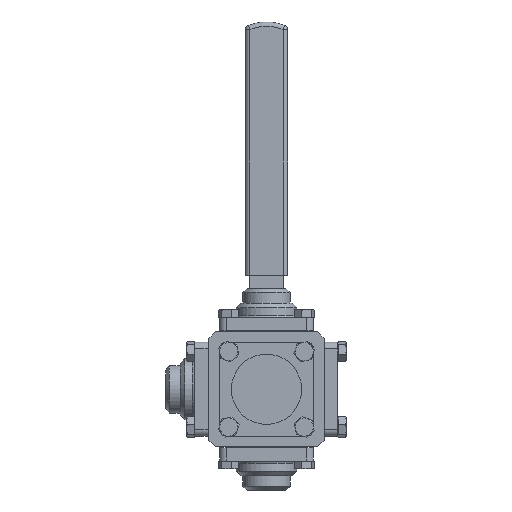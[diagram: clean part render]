
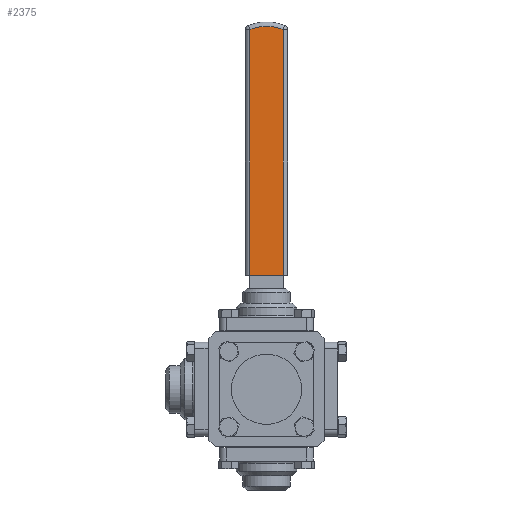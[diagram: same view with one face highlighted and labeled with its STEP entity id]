
A CAD part, front view. The second image highlights one B-rep face of the part: STEP entity #2375.
In plain terms, the highlighted planar face has unit normal (0, -1, 0).
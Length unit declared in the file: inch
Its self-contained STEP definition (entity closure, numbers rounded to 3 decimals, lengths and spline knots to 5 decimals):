
#467 = FACE_OUTER_BOUND ( 'NONE', #27627, .T. ) ;
#759 = VECTOR ( 'NONE', #25459, 39.37008 ) ;
#765 = VECTOR ( 'NONE', #14505, 39.37008 ) ;
#2375 = ADVANCED_FACE ( 'NONE', ( #467 ), #17873, .F. ) ;
#2649 = ORIENTED_EDGE ( 'NONE', *, *, #22527, .F. ) ;
#4998 = ORIENTED_EDGE ( 'NONE', *, *, #12411, .T. ) ;
#5904 = LINE ( 'NONE', #23674, #21831 ) ;
#6834 = CARTESIAN_POINT ( 'NONE',  ( 0.4685, 3.875, 3.20824 ) ) ;
#8479 = CARTESIAN_POINT ( 'NONE',  ( -0.5935, 3.875, 3.20824 ) ) ;
#8486 = CARTESIAN_POINT ( 'NONE',  ( -0.4685, 3.875, 3.20824 ) ) ;
#9050 = CARTESIAN_POINT ( 'NONE',  ( -0.4685, 3.875, 10.12749 ) ) ;
#12411 = EDGE_CURVE ( 'NONE', #16340, #23358, #5904, .T. ) ;
#12708 = AXIS2_PLACEMENT_3D ( 'NONE', #19369, #14525, #23281 ) ;
#14085 = EDGE_CURVE ( 'NONE', #20604, #28059, #16671, .T. ) ;
#14505 = DIRECTION ( 'NONE',  ( -1., 0., 0. ) ) ;
#14525 = DIRECTION ( 'NONE',  ( 0., -1., 0. ) ) ;
#14973 = CARTESIAN_POINT ( 'NONE',  ( -0.4685, 3.875, 3.20824 ) ) ;
#16340 = VERTEX_POINT ( 'NONE', #6834 ) ;
#16440 = DIRECTION ( 'NONE',  ( -1., 0., 0. ) ) ;
#16671 = LINE ( 'NONE', #14973, #759 ) ;
#16775 = LINE ( 'NONE', #8479, #765 ) ;
#17873 = PLANE ( 'NONE',  #27097 ) ;
#18169 = CARTESIAN_POINT ( 'NONE',  ( 0., 3.875, 8.99291 ) ) ;
#18963 = ORIENTED_EDGE ( 'NONE', *, *, #14085, .T. ) ;
#19069 = CIRCLE ( 'NONE', #12708, 1.2275 ) ;
#19369 = CARTESIAN_POINT ( 'NONE',  ( 0., 3.875, 8.99291 ) ) ;
#20604 = VERTEX_POINT ( 'NONE', #9050 ) ;
#21831 = VECTOR ( 'NONE', #25680, 39.37008 ) ;
#22527 = EDGE_CURVE ( 'NONE', #16340, #28059, #16775, .T. ) ;
#22742 = ORIENTED_EDGE ( 'NONE', *, *, #23970, .T. ) ;
#23281 = DIRECTION ( 'NONE',  ( -1., 0., 0. ) ) ;
#23358 = VERTEX_POINT ( 'NONE', #24661 ) ;
#23674 = CARTESIAN_POINT ( 'NONE',  ( 0.4685, 3.875, 10.20824 ) ) ;
#23970 = EDGE_CURVE ( 'NONE', #23358, #20604, #19069, .T. ) ;
#24661 = CARTESIAN_POINT ( 'NONE',  ( 0.4685, 3.875, 10.12749 ) ) ;
#25459 = DIRECTION ( 'NONE',  ( 0., 0., -1. ) ) ;
#25680 = DIRECTION ( 'NONE',  ( 0., 0., 1. ) ) ;
#26955 = DIRECTION ( 'NONE',  ( 0., 1., 0. ) ) ;
#27097 = AXIS2_PLACEMENT_3D ( 'NONE', #18169, #26955, #16440 ) ;
#27627 = EDGE_LOOP ( 'NONE', ( #2649, #4998, #22742, #18963 ) ) ;
#28059 = VERTEX_POINT ( 'NONE', #8486 ) ;
